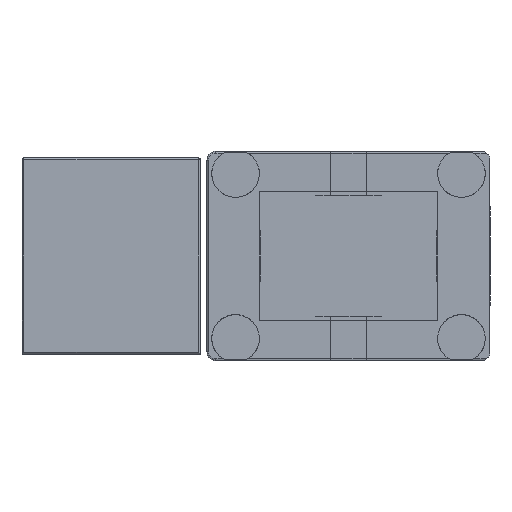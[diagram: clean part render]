
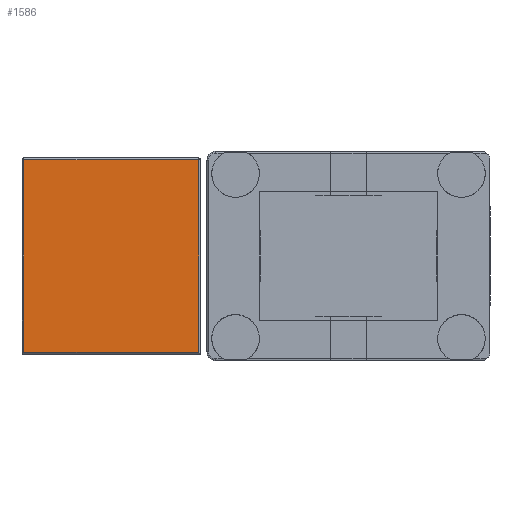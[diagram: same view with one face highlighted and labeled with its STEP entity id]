
A CAD part, left-side view. The second image highlights one B-rep face of the part: STEP entity #1586.
In plain terms, the highlighted planar face has unit normal (-1, 0, 0).
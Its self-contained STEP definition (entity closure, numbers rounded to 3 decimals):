
#36 = LINE ( 'NONE', #3013, #7474 ) ;
#844 = EDGE_LOOP ( 'NONE', ( #6467, #8702, #9033, #2495 ) ) ;
#1342 = DIRECTION ( 'NONE',  ( 0., 0., -1. ) ) ;
#1538 = CARTESIAN_POINT ( 'NONE',  ( -38., 51.75, 10.8 ) ) ;
#1586 = ADVANCED_FACE ( 'NONE', ( #8227 ), #7420, .T. ) ;
#1926 = AXIS2_PLACEMENT_3D ( 'NONE', #3878, #2444, #2378 ) ;
#1966 = DIRECTION ( 'NONE',  ( 0., 0., 1. ) ) ;
#2378 = DIRECTION ( 'NONE',  ( 0., 0., 1. ) ) ;
#2398 = VERTEX_POINT ( 'NONE', #5863 ) ;
#2444 = DIRECTION ( 'NONE',  ( -1., 0., 0. ) ) ;
#2495 = ORIENTED_EDGE ( 'NONE', *, *, #6824, .T. ) ;
#2533 = LINE ( 'NONE', #2669, #3537 ) ;
#2669 = CARTESIAN_POINT ( 'NONE',  ( -38., 31.95, -10. ) ) ;
#2810 = VERTEX_POINT ( 'NONE', #3579 ) ;
#3013 = CARTESIAN_POINT ( 'NONE',  ( -38., 31.75, -10.8 ) ) ;
#3537 = VECTOR ( 'NONE', #1966, 1000. ) ;
#3568 = CARTESIAN_POINT ( 'NONE',  ( -38., 31.95, -10.8 ) ) ;
#3579 = CARTESIAN_POINT ( 'NONE',  ( -38., 51.55, -10.8 ) ) ;
#3684 = LINE ( 'NONE', #1538, #7286 ) ;
#3806 = DIRECTION ( 'NONE',  ( 0., -1., 0. ) ) ;
#3878 = CARTESIAN_POINT ( 'NONE',  ( -38., 49.75, -10. ) ) ;
#4119 = EDGE_CURVE ( 'NONE', #2810, #9143, #36, .T. ) ;
#4695 = LINE ( 'NONE', #9148, #6394 ) ;
#5286 = EDGE_CURVE ( 'NONE', #9143, #5755, #2533, .T. ) ;
#5755 = VERTEX_POINT ( 'NONE', #7897 ) ;
#5863 = CARTESIAN_POINT ( 'NONE',  ( -38., 51.55, 10.8 ) ) ;
#6394 = VECTOR ( 'NONE', #1342, 1000. ) ;
#6467 = ORIENTED_EDGE ( 'NONE', *, *, #6710, .T. ) ;
#6560 = DIRECTION ( 'NONE',  ( 0., 1., 0. ) ) ;
#6710 = EDGE_CURVE ( 'NONE', #2398, #2810, #4695, .T. ) ;
#6824 = EDGE_CURVE ( 'NONE', #5755, #2398, #3684, .T. ) ;
#7286 = VECTOR ( 'NONE', #6560, 1000. ) ;
#7420 = PLANE ( 'NONE',  #1926 ) ;
#7474 = VECTOR ( 'NONE', #3806, 1000. ) ;
#7897 = CARTESIAN_POINT ( 'NONE',  ( -38., 31.95, 10.8 ) ) ;
#8227 = FACE_OUTER_BOUND ( 'NONE', #844, .T. ) ;
#8702 = ORIENTED_EDGE ( 'NONE', *, *, #4119, .T. ) ;
#9033 = ORIENTED_EDGE ( 'NONE', *, *, #5286, .T. ) ;
#9143 = VERTEX_POINT ( 'NONE', #3568 ) ;
#9148 = CARTESIAN_POINT ( 'NONE',  ( -38., 51.55, -10. ) ) ;
